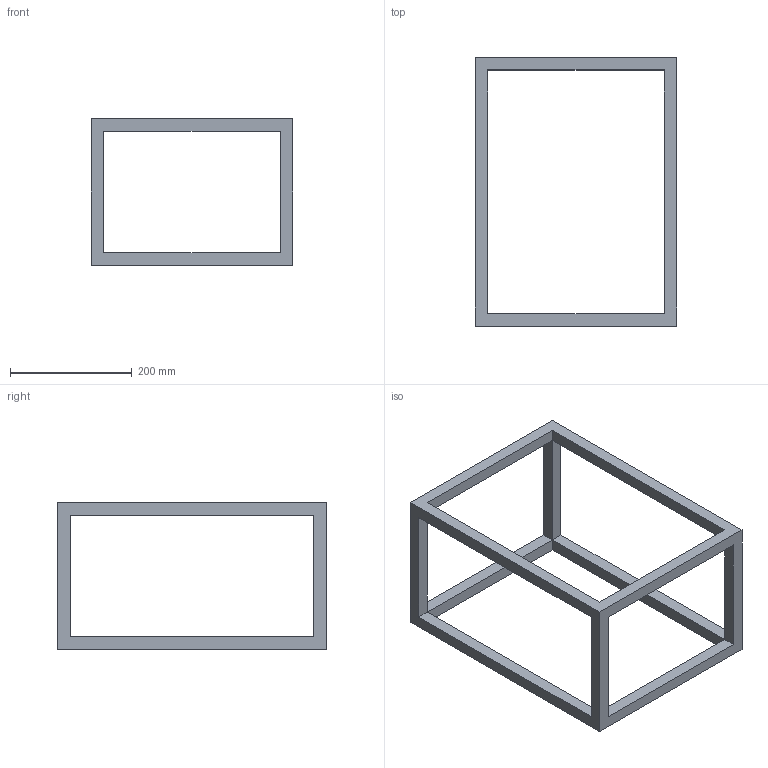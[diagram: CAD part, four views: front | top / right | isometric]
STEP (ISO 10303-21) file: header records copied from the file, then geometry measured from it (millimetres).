
FILE_DESCRIPTION(/* description */ ('STEP AP242','CAx-IF Rec.Pracs.---Representation and Presentation of Product Manufacturing Information (PMI)---4.0---2014-10-13','CAx-IF Rec.Pracs.---3D Tessellated Geometry---0.4---2014-09-14','2;1','CAx-IF Rec.Pracs.---User Defined Attributes---1.5---2016-08-15'),/* implementation_level */ '2;1');
FILE_NAME(/* name */ 'Full Assembly - Part 1 (4)',/* time_stamp */ '2025-11-03T04:00:12Z',/* author */ (''),/* organization */ (''),/* preprocessor_version */ 'ST-DEVELOPER v20',/* originating_system */ 'ONSHAPE BY PTC INC, 1.206',/* authorisation */ ' ');
FILE_SCHEMA (('AP242_MANAGED_MODEL_BASED_3D_ENGINEERING_MIM_LF { 1 0 10303 442 1 1 4 }'));
Length unit declared in the file: metre
Products named in the file (1): Part 1
Bounding box: 330 x 440 x 240 mm (x, y, z)
Volume: 1488000 mm3; surface area: 294400 mm2
Topology: 1 solids, 1 shells, 30 faces, 72 edges, 40 vertices
Faces by surface type: plane 30
Entity records: 866 total; most frequent: ORIENTED_EDGE 144, CARTESIAN_POINT 143, DIRECTION 134, EDGE_CURVE 72, LINE 72, VECTOR 72, VERTEX_POINT 40, EDGE_LOOP 36
